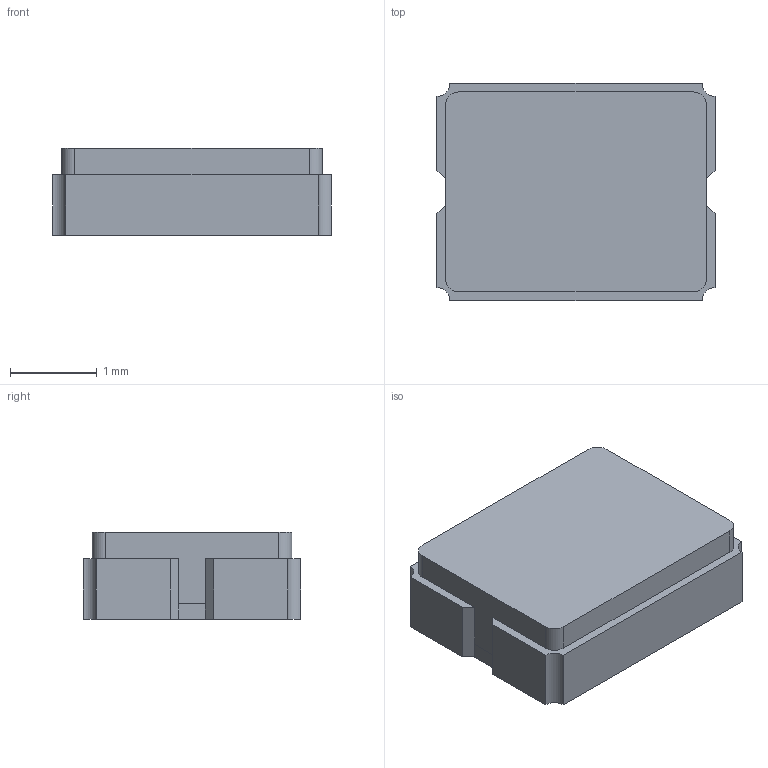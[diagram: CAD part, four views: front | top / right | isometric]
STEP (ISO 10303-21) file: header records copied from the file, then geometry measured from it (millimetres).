
FILE_DESCRIPTION (( 'STEP AP214' ), '1' );
FILE_NAME ('CRYSTAL-SMD_L3.2-W2.5_3225-8MHZ.STEP', '2022-02-22T06:30:28', ( '微软用户' ), ( '微软中国' ), 'SwSTEP 2.0', 'SolidWorks 2017', '' );
FILE_SCHEMA (( 'AUTOMOTIVE_DESIGN' ));
Length unit declared in the file: millimetre
Products named in the file (1): CRYSTAL-SMD_L3.2-W2.5_3225-8MHZ
Bounding box: 3.2 x 2.5 x 1 mm (x, y, z)
Volume: 7.6 mm3; surface area: 26.8 mm2
Topology: 1 solids, 1 shells, 102 faces, 279 edges, 186 vertices
Faces by surface type: plane 76, bspline 14, cylinder 12
Entity records: 4416 total; most frequent: CARTESIAN_POINT 1366, ORIENTED_EDGE 558, DIRECTION 453, EDGE_CURVE 279, LINE 227, VECTOR 227, VERTEX_POINT 186, AXIS2_PLACEMENT_3D 113
